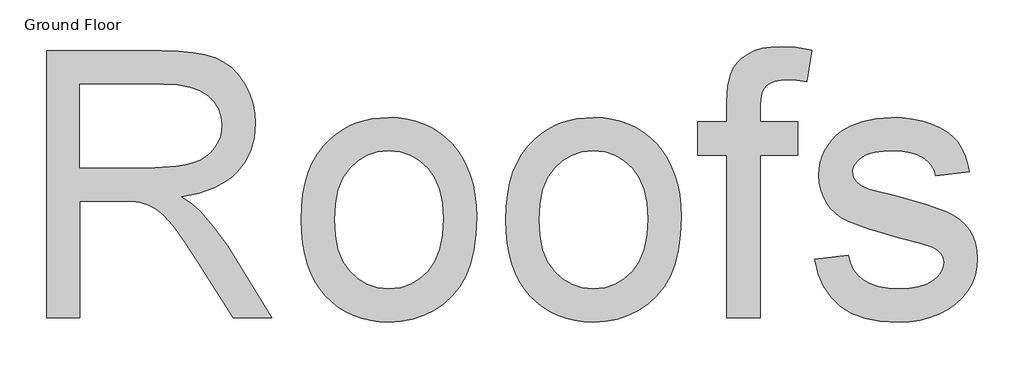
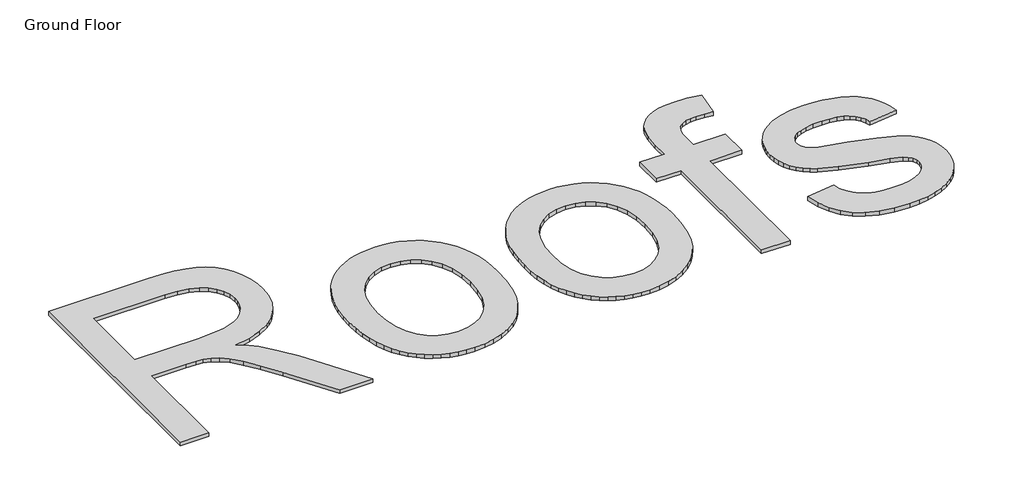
# One storey, part 10 of 14: 1 proxy.
"""IFC4 building model written with IfcOpenShell, lengths in millimetres."""

import ifcopenshell
import ifcopenshell.guid

model = None  # the IFC model being written
_history = None  # IfcOwnerHistory: only IFC2X3 demands one
_inside = {}  # id of a spatial element -> (the spatial element, [elements in it])
_under = {}  # id of a project, library or spatial element -> (it, [spatial elements below it])
_declared = {}  # id of a project -> (the project, [libraries it declares])
_typed = {}  # id of a type object -> (the type object, [elements of that type])
_made_of = {}  # id of a material, layer set ... -> (it, [elements and type objects made of it])


def new_model(schema):
    """Start an empty IFC model of exactly this schema.

    Asked for "IFC4X3", IfcOpenShell would pick the latest addendum, in which some entities
    have other attributes; the version numbers below select the first issue.
    IFC2X3 requires an IfcOwnerHistory on every rooted entity: one is made here for all.
    """
    global model, _history
    if schema == "IFC4X3":
        model = ifcopenshell.file(schema_version=(4, 3, 0, 0))
    else:
        model = ifcopenshell.file(schema=schema)
    _inside.clear()
    _under.clear()
    _declared.clear()
    _typed.clear()
    _made_of.clear()
    _history = None
    if model.schema == "IFC2X3":
        org = make("IfcOrganization", Name="unknown")
        user = make(
            "IfcPersonAndOrganization",
            ThePerson=make("IfcPerson", FamilyName="unknown"),
            TheOrganization=org,
        )
        app = make(
            "IfcApplication",
            ApplicationDeveloper=org,
            Version="unknown",
            ApplicationFullName="unknown",
            ApplicationIdentifier="unknown",
        )
        _history = make(
            "IfcOwnerHistory",
            OwningUser=user,
            OwningApplication=app,
            ChangeAction="ADDED",
            CreationDate=0,
        )
    return model


def make(cls, **values):
    """One entity of the class cls with the attributes given. An attribute that is None is left unset."""
    return model.create_entity(
        cls, **{name: value for name, value in values.items() if value is not None}
    )


def rooted(cls, **values):
    """An entity with a GlobalId (a new one), such as an element, a storey or a relation."""
    return make(cls, GlobalId=ifcopenshell.guid.new(), OwnerHistory=_history, **values)


def si_unit(unit_type, name, prefix=None):
    """IfcSIUnit, for example si_unit("LENGTHUNIT", "METRE", prefix="MILLI")."""
    return make("IfcSIUnit", UnitType=unit_type, Prefix=prefix, Name=name)


def assignment(units):
    """IfcUnitAssignment: the units of a project."""
    return None if units is None else make("IfcUnitAssignment", Units=units)


def point(xyz):
    """IfcCartesianPoint."""
    return None if xyz is None else make("IfcCartesianPoint", Coordinates=xyz)


def direction(xyz):
    """IfcDirection."""
    return None if xyz is None else make("IfcDirection", DirectionRatios=xyz)


def frame(location, z_axis=None, x_axis=None):
    """IfcAxis2Placement3D, a coordinate frame: its origin and axes. An axis left out is left unset."""
    return make(
        "IfcAxis2Placement3D",
        Location=point(location),
        Axis=direction(z_axis),
        RefDirection=direction(x_axis),
    )


def origin():
    """The frame at (0, 0, 0) with its axes left unset."""
    return frame((0.0, 0.0, 0.0))


def origin_with_axes():
    """The frame at (0, 0, 0) with the z axis (0, 0, 1) and the x axis (1, 0, 0) written out."""
    return frame((0.0, 0.0, 0.0), z_axis=(0.0, 0.0, 1.0), x_axis=(1.0, 0.0, 0.0))


def place(relative_to, where):
    """IfcLocalPlacement: puts the frame where relative to a parent placement (None: the world)."""
    return make(
        "IfcLocalPlacement", PlacementRelTo=relative_to, RelativePlacement=where
    )


def context(
    kind, dimensions, precision=None, world=None, true_north=None, identifier=None
):
    """IfcGeometricRepresentationContext, for example the 3D "Model" context."""
    return make(
        "IfcGeometricRepresentationContext",
        ContextIdentifier=identifier,
        ContextType=kind,
        CoordinateSpaceDimension=dimensions,
        Precision=precision,
        WorldCoordinateSystem=world,
        TrueNorth=true_north,
    )


def project(units=None, contexts=None):
    """IfcProject with its units and contexts."""
    return rooted(
        "IfcProject",
        Name="project",
        RepresentationContexts=contexts,
        UnitsInContext=assignment(units),
    )


def spatial(cls, under=None, at=None, **own):
    """A site, building, storey or space (cls), placed at a placement, below another one or the project."""
    s = rooted(cls, ObjectPlacement=at, **own)
    if under is not None:
        _under.setdefault(under.id(), (under, []))[1].append(s)
    return s


def polyline(points):
    """IfcPolyline through the points."""
    return make("IfcPolyline", Points=[point(p) for p in points])


def outline(outer, holes=None, kind="AREA"):
    """IfcArbitraryClosedProfileDef: a profile drawn as a closed curve; with holes, ...WithVoids."""
    if holes is None:
        return make("IfcArbitraryClosedProfileDef", ProfileType=kind, OuterCurve=outer)
    return make(
        "IfcArbitraryProfileDefWithVoids",
        ProfileType=kind,
        OuterCurve=outer,
        InnerCurves=holes,
    )


def extrude(swept, where, along, depth):
    """IfcExtrudedAreaSolid: the profile swept, set in the frame where, extruded along a direction by depth."""
    return make(
        "IfcExtrudedAreaSolid",
        SweptArea=swept,
        Position=where,
        ExtrudedDirection=direction(along),
        Depth=depth,
    )


def shape(context_of_items, identifier, shape_type, items):
    """IfcShapeRepresentation: the items that make up one representation, for example the "Body"."""
    return make(
        "IfcShapeRepresentation",
        ContextOfItems=context_of_items,
        RepresentationIdentifier=identifier,
        RepresentationType=shape_type,
        Items=items,
    )


def made_of(thing, what):
    """Note that an element or type object is made of a material, layer set ...; save() writes the relation."""
    if what is not None:
        _made_of.setdefault(what.id(), (what, []))[1].append(thing)
    return thing


def element(
    cls,
    number,
    at=None,
    inside=None,
    cuts=None,
    type_object=None,
    material=None,
    context=None,
    identifier="Body",
    shape_type=None,
    held_by="IfcProductDefinitionShape",
    body=None,
    shapes=None,
    **own,
):
    """One element of the class cls, such as IfcWall. Its Tag is "e" and its number.

    at: its placement. inside: the storey or other place that contains it. cuts: it is an
    opening in that element (IfcRelVoidsElement). A single representation is given by context,
    identifier, shape_type and body (its items); several are given by shapes. held_by: the class
    of the entity that holds the representations. save() writes the other relations.
    """
    e = rooted(cls, Tag="e%d" % number, ObjectPlacement=at, **own)
    if body is not None:
        shapes = [shape(context, identifier, shape_type, body)]
    if shapes is not None:
        e.Representation = make(held_by, Representations=shapes)
    if inside is not None:
        _inside.setdefault(inside.id(), (inside, []))[1].append(e)
    if cuts is not None:
        rooted(
            "IfcRelVoidsElement", RelatingBuildingElement=cuts, RelatedOpeningElement=e
        )
    if type_object is not None:
        _typed.setdefault(type_object.id(), (type_object, []))[1].append(e)
    return made_of(e, material)


def aggregate(whole, parts):
    """IfcRelAggregates: a whole, such as a stair, and the parts it consists of."""
    return rooted("IfcRelAggregates", RelatingObject=whole, RelatedObjects=parts)


def save(model, path):
    """Write the relations noted so far, then the file.

    IfcRelAggregates (storeys below a building ...), IfcRelContainedInSpatialStructure (elements
    in a storey), IfcRelDefinesByType, IfcRelAssociatesMaterial and IfcRelDeclares: one each for
    every whole, place, type object, material and project.
    """
    for whole, parts in _under.values():
        aggregate(whole, parts)
    for where, things in _inside.values():
        rooted(
            "IfcRelContainedInSpatialStructure",
            RelatedElements=things,
            RelatingStructure=where,
        )
    for kind, things in _typed.values():
        rooted("IfcRelDefinesByType", RelatedObjects=things, RelatingType=kind)
    for what, things in _made_of.values():
        rooted("IfcRelAssociatesMaterial", RelatedObjects=things, RelatingMaterial=what)
    for by, libraries in _declared.values():
        rooted("IfcRelDeclares", RelatingContext=by, RelatedDefinitions=libraries)
    model.write(path)


model = new_model("IFC4")

# Units and contexts
model_context = context("Model", 3, world=origin())
ifc_project = project(units=[si_unit("LENGTHUNIT", "METRE", prefix="MILLI")], contexts=[model_context])

# Site, building, storey
site = spatial("IfcSite", under=ifc_project)
building = spatial("IfcBuilding", under=site)
storey = spatial("IfcBuildingStorey", under=building, Name="Ground Floor", Elevation=0.0)

# Proxy
placement = place(None, origin())
element("IfcBuildingElementProxy", 1, Name="1200mm Arial", ObjectType="1200mm Arial", at=placement, inside=storey, context=model_context, shape_type="SweptSolid", body=[
    extrude(outline(polyline([(-35684.9805718, -437.2904252), (-35684.9805718, 737.9823021), (-35178.5459127, 737.9823021), (-35105.8535299, 736.0006792), (-35042.4326315, 730.0558106), (-34988.2832174, 720.1476963), (-34943.4052877, 706.2763362), (-34905.1895562, 687.3747027), (-34871.0267366, 662.375768), (-34840.9168289, 631.2795322), (-34814.8598332, 594.0859953), (-34793.8331109, 552.7947133), (-34778.8140235, 509.4052424), (-34769.8025711, 463.9175826), (-34766.7987536, 416.3317339), (-34771.7752274, 355.9684527), (-34786.7046485, 300.5547453), (-34811.5870171, 250.0906117), (-34846.4223332, 204.5760521), (-34867.6844292, 184.0380105), (-34891.6589276, 165.4636586), (-34947.7451315, 134.2060237), (-35014.6809447, 110.8031473), (-35092.4663673, 95.2550294), (-35044.046623, 63.6207964), (-35008.9692082, 32.4169612), (-34948.7852593, -38.9573286), (-34889.8925036, -118.796107), (-34693.9180718, -437.2904252), (-34864.6425036, -437.2904252), (-35017.5771627, -193.6853115), (-35078.765373, -100.7194025), (-35128.0459127, -32.4296297), (-35169.1130292, 14.591322), (-35205.6609695, 43.750768), (-35240.2721201, 60.8590777), (-35275.5288673, 71.7266203), (-35309.8889525, 75.6001998), (-35360.7476173, 76.891393), (-35538.0714809, 76.891393), (-35538.0714809, -437.2904252), (-35684.9805718, -437.2904252)]), holes=[polyline([(-35538.0714809, 223.8004839), (-35209.2476173, 223.8004839), (-35114.8111826, 229.0011231), (-35075.5284234, 235.5019221), (-35041.5359695, 244.6030407), (-35012.0716585, 256.5645109), (-34986.3733275, 271.6463646), (-34964.4409767, 289.8486018), (-34946.2746059, 311.1712225), (-34932.0266478, 334.5651323), (-34921.8495349, 358.9812367), (-34915.7432671, 384.4195358), (-34913.7078445, 410.8800294), (-34917.5903907, 448.4501643), (-34929.2380292, 482.541251), (-34948.65076, 513.1532893), (-34975.8285832, 540.2862794), (-35011.399162, 562.505562), (-35055.9901599, 578.3764782), (-35109.6015768, 587.8990279), (-35172.2334127, 591.0732112), (-35538.0714809, 591.0732112), (-35538.0714809, 223.8004839)])]), origin_with_axes(), (0.0, 0.0, 1.0), 20.0),
    extrude(outline(polyline([(-34564.7987536, -5.7449706), (-34562.8126475, 52.076274), (-34556.8543289, 106.0329058), (-34546.923798, 156.1249246), (-34533.0210548, 202.3523305), (-34515.1460992, 244.7151235), (-34493.2989312, 283.2133035), (-34467.4795509, 317.8468706), (-34437.6879582, 348.6158248), (-34410.4204688, 371.0099566), (-34381.7003872, 390.4182041), (-34351.5277132, 406.8405674), (-34319.9024468, 420.2770464), (-34286.8245882, 430.7276412), (-34252.2941372, 438.1923518), (-34178.8754582, 444.1641203), (-34137.3801856, 442.3461382), (-34097.8261862, 436.892192), (-34060.2134598, 427.8022817), (-34024.5420065, 415.0764072), (-33990.8118263, 398.7145686), (-33959.0229191, 378.7167659), (-33929.1752851, 355.082999), (-33901.2689241, 327.813268), (-33876.0166824, 297.3379706), (-33854.1314063, 264.0875045), (-33835.6130958, 228.0618697), (-33820.4617508, 189.2610663), (-33808.6773714, 147.6850942), (-33800.2599575, 103.3339534), (-33795.2095091, 56.2076439), (-33793.5260264, 6.3061657), (-33796.502944, -72.3310857), (-33805.4336968, -142.1093172), (-33820.3182849, -203.0285289), (-33841.1567082, -255.0887206), (-33867.6889347, -300.0563165), (-33899.6549326, -339.6977405), (-33937.0547018, -374.0129927), (-33979.8882423, -403.0020729), (-34026.4877629, -426.0373179), (-34075.1854724, -442.4910644), (-34125.9813708, -452.3633123), (-34178.8754582, -455.6540615), (-34221.0252939, -453.8428044), (-34261.108324, -448.4090331), (-34299.1245482, -439.3527476), (-34335.0739667, -426.6739479), (-34368.9565795, -410.372634), (-34400.7723865, -390.4488059), (-34430.5213877, -366.9024635), (-34458.2035832, -339.733607), (-34483.1868263, -309.1574351), (-34504.8389703, -275.3891468), (-34523.1600152, -238.4287419), (-34538.149961, -198.2762206), (-34549.8088078, -154.9315829), (-34558.1365555, -108.3948286), (-34563.1332041, -58.6659579), (-34564.7987536, -5.7449706)]), holes=[polyline([(-34417.8896627, -5.4580388), (-34413.6394852, -76.7157625), (-34400.8889525, -138.4150701), (-34379.6380647, -190.5559614), (-34349.8868218, -233.1384365), (-34313.6975463, -266.2162952), (-34273.1325605, -289.8433371), (-34228.1918644, -304.0195623), (-34178.8754582, -308.7449706), (-34129.8101173, -303.9926624), (-34085.0487536, -289.7357377), (-34044.5913673, -265.9741965), (-34008.4379582, -232.7080388), (-33978.6867153, -189.7041326), (-33957.4358275, -136.7293456), (-33944.6852948, -73.783678), (-33940.4351173, -0.8671297), (-33944.7121947, 68.1310059), (-33957.5434269, 128.216322), (-33978.928814, 179.3888184), (-34008.8683559, 221.6484953), (-34045.1562643, 254.7263539), (-34085.5867508, 278.3533958), (-34130.1598154, 292.529621), (-34178.8754582, 297.2550294), (-34228.1918644, 292.5475542), (-34273.1325605, 278.4251288), (-34313.6975463, 254.8877531), (-34349.8868218, 221.9354271), (-34379.6380647, 179.4784846), (-34400.8889525, 127.4272595), (-34413.6394852, 65.7817517), (-34417.8896627, -5.4580388)])]), origin_with_axes(), (0.0, 0.0, 1.0), 20.0),
    extrude(outline(polyline([(-33664.9805718, -5.7449706), (-33662.9944656, 52.076274), (-33657.0361471, 106.0329058), (-33647.1056162, 156.1249246), (-33633.202873, 202.3523305), (-33615.3279173, 244.7151235), (-33593.4807494, 283.2133035), (-33567.6613691, 317.8468706), (-33537.8697764, 348.6158248), (-33510.602287, 371.0099566), (-33481.8822053, 390.4182041), (-33451.7095313, 406.8405674), (-33420.084265, 420.2770464), (-33387.0064063, 430.7276412), (-33352.4759553, 438.1923518), (-33279.0572764, 444.1641203), (-33237.5620038, 442.3461382), (-33198.0080044, 436.892192), (-33160.395278, 427.8022817), (-33124.7238247, 415.0764072), (-33090.9936444, 398.7145686), (-33059.2047373, 378.7167659), (-33029.3571032, 355.082999), (-33001.4507423, 327.813268), (-32976.1985006, 297.3379706), (-32954.3132245, 264.0875045), (-32935.794914, 228.0618697), (-32920.643569, 189.2610663), (-32908.8591895, 147.6850942), (-32900.4417757, 103.3339534), (-32895.3913273, 56.2076439), (-32893.7078445, 6.3061657), (-32896.6847622, -72.3310857), (-32905.615515, -142.1093172), (-32920.5001031, -203.0285289), (-32941.3385264, -255.0887206), (-32967.8707529, -300.0563165), (-32999.8367508, -339.6977405), (-33037.23652, -374.0129927), (-33080.0700605, -403.0020729), (-33126.6695811, -426.0373179), (-33175.3672906, -442.4910644), (-33226.163189, -452.3633123), (-33279.0572764, -455.6540615), (-33321.2071121, -453.8428044), (-33361.2901421, -448.4090331), (-33399.3063664, -439.3527476), (-33435.2557849, -426.6739479), (-33469.1383976, -410.372634), (-33500.9542046, -390.4488059), (-33530.7032059, -366.9024635), (-33558.3854014, -339.733607), (-33583.3686444, -309.1574351), (-33605.0207884, -275.3891468), (-33623.3418334, -238.4287419), (-33638.3317792, -198.2762206), (-33649.990626, -154.9315829), (-33658.3183737, -108.3948286), (-33663.3150223, -58.6659579), (-33664.9805718, -5.7449706)]), holes=[polyline([(-33518.0714809, -5.4580388), (-33513.8213034, -76.7157625), (-33501.0707707, -138.4150701), (-33479.8198829, -190.5559614), (-33450.06864, -233.1384365), (-33413.8793644, -266.2162952), (-33373.3143786, -289.8433371), (-33328.3736826, -304.0195623), (-33279.0572764, -308.7449706), (-33229.9919355, -303.9926624), (-33185.2305718, -289.7357377), (-33144.7731855, -265.9741965), (-33108.6197764, -232.7080388), (-33078.8685335, -189.7041326), (-33057.6176457, -136.7293456), (-33044.867113, -73.783678), (-33040.6169355, -0.8671297), (-33044.8940129, 68.1310059), (-33057.7252451, 128.216322), (-33079.1106322, 179.3888184), (-33109.0501741, 221.6484953), (-33145.3380825, 254.7263539), (-33185.768569, 278.3533958), (-33230.3416336, 292.529621), (-33279.0572764, 297.2550294), (-33328.3736826, 292.5475542), (-33373.3143786, 278.4251288), (-33413.8793644, 254.8877531), (-33450.06864, 221.9354271), (-33479.8198829, 179.4784846), (-33501.0707707, 127.4272595), (-33513.8213034, 65.7817517), (-33518.0714809, -5.4580388)])]), origin_with_axes(), (0.0, 0.0, 1.0), 20.0),
    extrude(outline(polyline([(-32691.7078445, -437.2904252), (-32691.7078445, 278.891393), (-32820.2532991, 278.891393), (-32820.2532991, 425.8004839), (-32691.7078445, 425.8004839), (-32691.7078445, 512.7408248), (-32687.834265, 584.6889782), (-32676.2135264, 635.2607112), (-32663.4450605, 660.9590421), (-32646.6595491, 684.1108532), (-32625.8569923, 704.7161444), (-32601.03739, 722.7749157), (-32571.6627451, 737.4622382), (-32537.1950605, 747.9531828), (-32497.634336, 754.2477495), (-32452.9805718, 756.3459385), (-32389.2099752, 752.328893), (-32318.9834127, 740.2777566), (-32340.5032991, 602.5504839), (-32384.0452025, 607.7152566), (-32425.1481855, 609.4368475), (-32455.4643254, 607.9125223), (-32480.9922906, 603.3395464), (-32501.7320811, 595.71792), (-32517.6836968, 585.047643), (-32529.5465342, 570.2168546), (-32538.0199894, 550.1136941), (-32543.1040626, 524.7381615), (-32544.7987536, 494.0902566), (-32544.7987536, 425.8004839), (-32379.5260264, 425.8004839), (-32379.5260264, 278.891393), (-32544.7987536, 278.891393), (-32544.7987536, -437.2904252), (-32691.7078445, -437.2904252)])), origin_with_axes(), (0.0, 0.0, 1.0), 20.0),
    extrude(outline(polyline([(-32306.0714809, -180.1995161), (-32159.16239, -161.8358797), (-32150.2854369, -195.3351695), (-32135.9926457, -224.6739479), (-32116.2840164, -249.852215), (-32091.1595491, -270.8699706), (-32060.5475107, -287.4402831), (-32024.3761684, -299.2762206), (-31982.6455221, -306.3777831), (-31935.3555718, -308.7449706), (-31888.1194213, -306.5750488), (-31847.4109695, -300.0652831), (-31813.2302167, -289.2156738), (-31785.5771627, -274.0262206), (-31764.2366088, -255.9136496), (-31748.9933559, -236.2946865), (-31739.8474042, -215.1693314), (-31736.7987536, -192.5375843), (-31739.8653374, -172.7034223), (-31749.0650889, -155.092982), (-31764.3980079, -139.7062633), (-31785.8640945, -126.5432661), (-31840.8832707, -107.8926979), (-31937.0771627, -84.6512206), (-32071.1460548, -45.8795587), (-32158.3015945, -12.7748002), (-32188.2232032, 3.8224122), (-32214.2891656, 23.3427424), (-32236.4994816, 45.7861906), (-32254.8541514, 71.1527566), (-32269.2276421, 98.6802779), (-32279.4944213, 127.6065919), (-32285.6544887, 157.9316984), (-32287.7078445, 189.6555975), (-32286.0579866, 218.662611), (-32281.1084127, 246.575697), (-32272.859123, 273.3948554), (-32261.3101173, 299.1200862), (-32246.9097267, 323.2313255), (-32230.106282, 345.2085095), (-32210.8997835, 365.051638), (-32189.2902309, 382.7607112), (-32148.7252451, 406.3967197), (-32095.8939241, 426.2308816), (-32034.8133133, 439.6808106), (-31969.5004582, 444.1641203), (-31920.1302522, 442.3618298), (-31873.8804298, 436.9549583), (-31830.7509909, 427.9435059), (-31790.7419355, 415.3274725), (-31754.8037252, 399.6358887), (-31723.8868218, 381.397785), (-31697.9912252, 360.6131615), (-31677.1169355, 337.282018), (-31660.1879582, 310.5883923), (-31646.1282991, 279.716322), (-31634.9379582, 244.6658071), (-31626.6169355, 205.4368475), (-31773.5260264, 187.0732112), (-31780.5289561, 211.6148483), (-31792.0689951, 233.3051004), (-31808.1461436, 252.1439676), (-31828.7604014, 268.1314498), (-31854.0014347, 280.8730159), (-31883.9589099, 289.9741345), (-31918.6328268, 295.4348056), (-31958.0231855, 297.2550294), (-32003.7170775, 295.5155052), (-32042.38114, 290.2969328), (-32074.015373, 281.599312), (-32098.6197764, 269.422643), (-32117.0730789, 254.9325862), (-32130.2540093, 239.2948021), (-32138.1625676, 222.5092907), (-32140.7987536, 204.5760521), (-32136.4230434, 181.9801714), (-32123.2959127, 161.8232112), (-32100.843498, 143.8182396), (-32068.4919355, 129.3999157), (-31941.9550036, 98.1243475), (-31812.1542224, 59.7472169), (-31726.3257423, 28.9737794), (-31696.1261684, 13.9636586), (-31669.3697764, -4.0951127), (-31646.0565661, -25.2025346), (-31626.1865377, -49.358607), (-31610.3066549, -76.5991965), (-31598.9638815, -106.9601695), (-31592.1582174, -140.441526), (-31589.8896627, -177.0432661), (-31592.5527487, -213.8064053), (-31600.5420065, -249.4935502), (-31613.8574362, -284.1047008), (-31632.4990377, -317.639857), (-31656.1619461, -348.7629927), (-31684.5412963, -376.1380814), (-31717.6370882, -399.7651233), (-31755.4493218, -419.6441184), (-31796.946836, -435.3984685), (-31841.0984695, -446.6515758), (-31887.9042224, -453.4034401), (-31937.3640945, -455.6540615), (-32016.4317437, -451.3142178), (-32085.4926457, -438.2946865), (-32144.5468005, -416.5954678), (-32193.5942082, -386.2165615), (-32233.6570633, -347.3014337), (-32265.7575605, -299.9935502), (-32289.8956997, -244.292911), (-32306.0714809, -180.1995161)])), origin_with_axes(), (0.0, 0.0, 1.0), 20.0),
])

save(model, "model.ifc")
